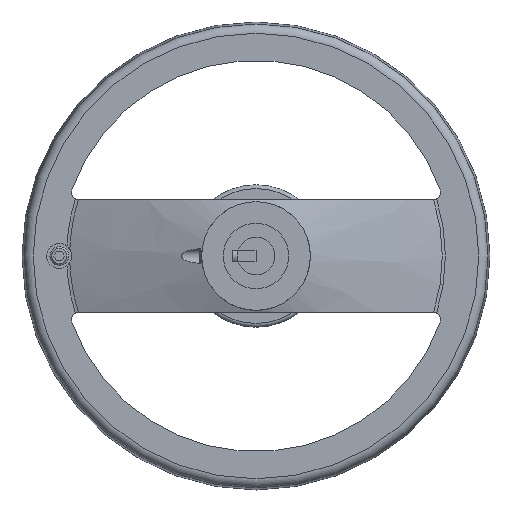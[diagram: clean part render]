
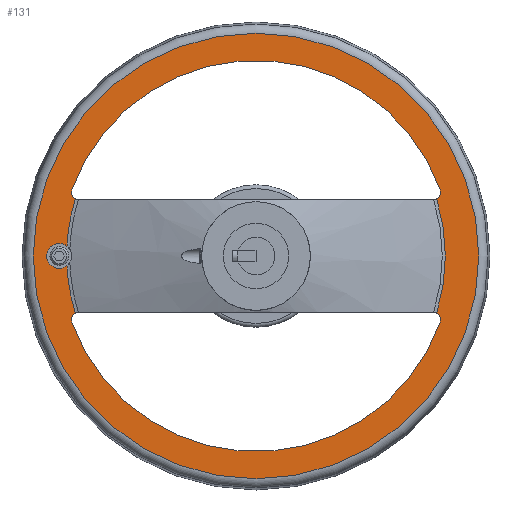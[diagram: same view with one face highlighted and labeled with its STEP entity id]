
A CAD part, left-side view. The second image highlights one B-rep face of the part: STEP entity #131.
In plain terms, the highlighted planar face has unit normal (-1, 0, 0).
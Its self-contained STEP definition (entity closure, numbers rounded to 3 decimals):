
#131 = ADVANCED_FACE( '', ( #306, #307, #308, #309 ), #310, .F. );
#306 = FACE_BOUND( '', #544, .T. );
#307 = FACE_OUTER_BOUND( '', #545, .T. );
#308 = FACE_BOUND( '', #546, .T. );
#309 = FACE_BOUND( '', #547, .T. );
#310 = PLANE( '', #548 );
#544 = EDGE_LOOP( '', ( #1050, #1051, #1052, #1053, #1054, #1055 ) );
#545 = EDGE_LOOP( '', ( #1056 ) );
#546 = EDGE_LOOP( '', ( #1057, #1058, #1059, #1060 ) );
#547 = EDGE_LOOP( '', ( #1061, #1062, #1063, #1064 ) );
#548 = AXIS2_PLACEMENT_3D( '', #1065, #1066, #1067 );
#1050 = ORIENTED_EDGE( '', *, *, #1488, .F. );
#1051 = ORIENTED_EDGE( '', *, *, #1366, .F. );
#1052 = ORIENTED_EDGE( '', *, *, #1489, .F. );
#1053 = ORIENTED_EDGE( '', *, *, #1372, .F. );
#1054 = ORIENTED_EDGE( '', *, *, #1370, .F. );
#1055 = ORIENTED_EDGE( '', *, *, #1490, .F. );
#1056 = ORIENTED_EDGE( '', *, *, #1491, .T. );
#1057 = ORIENTED_EDGE( '', *, *, #1471, .F. );
#1058 = ORIENTED_EDGE( '', *, *, #1474, .F. );
#1059 = ORIENTED_EDGE( '', *, *, #1476, .F. );
#1060 = ORIENTED_EDGE( '', *, *, #1467, .F. );
#1061 = ORIENTED_EDGE( '', *, *, #1463, .F. );
#1062 = ORIENTED_EDGE( '', *, *, #1487, .F. );
#1063 = ORIENTED_EDGE( '', *, *, #1484, .F. );
#1064 = ORIENTED_EDGE( '', *, *, #1480, .F. );
#1065 = CARTESIAN_POINT( '', ( 38., -118.889, 0. ) );
#1066 = DIRECTION( '', ( 1., 0., 0. ) );
#1067 = DIRECTION( '', ( 0., 0., -1. ) );
#1366 = EDGE_CURVE( '', #1593, #1595, #1596, .T. );
#1370 = EDGE_CURVE( '', #1600, #1598, #1602, .T. );
#1372 = EDGE_CURVE( '', #1598, #1605, #1606, .F. );
#1463 = EDGE_CURVE( '', #1765, #1767, #1768, .F. );
#1467 = EDGE_CURVE( '', #1773, #1775, #1776, .T. );
#1471 = EDGE_CURVE( '', #1780, #1773, #1782, .F. );
#1474 = EDGE_CURVE( '', #1785, #1780, #1787, .F. );
#1476 = EDGE_CURVE( '', #1775, #1785, #1789, .F. );
#1480 = EDGE_CURVE( '', #1767, #1794, #1795, .F. );
#1484 = EDGE_CURVE( '', #1794, #1801, #1802, .F. );
#1487 = EDGE_CURVE( '', #1801, #1765, #1805, .T. );
#1488 = EDGE_CURVE( '', #1595, #1806, #1807, .T. );
#1489 = EDGE_CURVE( '', #1605, #1593, #1808, .T. );
#1490 = EDGE_CURVE( '', #1806, #1600, #1809, .T. );
#1491 = EDGE_CURVE( '', #1810, #1810, #1811, .T. );
#1593 = VERTEX_POINT( '', #2091 );
#1595 = VERTEX_POINT( '', #2098 );
#1596 = LINE( '', #2099, #2100 );
#1598 = VERTEX_POINT( '', #2107 );
#1600 = VERTEX_POINT( '', #2116 );
#1602 = CIRCLE( '', #2123, 101.05 );
#1605 = VERTEX_POINT( '', #2126 );
#1606 = CIRCLE( '', #2127, 6.667 );
#1765 = VERTEX_POINT( '', #2440 );
#1767 = VERTEX_POINT( '', #2443 );
#1768 = CIRCLE( '', #2444, 4. );
#1773 = VERTEX_POINT( '', #2475 );
#1775 = VERTEX_POINT( '', #2478 );
#1776 = LINE( '', #2479, #2480 );
#1780 = VERTEX_POINT( '', #2507 );
#1782 = CIRCLE( '', #2510, 4. );
#1785 = VERTEX_POINT( '', #2513 );
#1787 = CIRCLE( '', #2516, 104.4 );
#1789 = CIRCLE( '', #2539, 4. );
#1794 = VERTEX_POINT( '', #2545 );
#1795 = CIRCLE( '', #2546, 104.4 );
#1801 = VERTEX_POINT( '', #2575 );
#1802 = CIRCLE( '', #2576, 4. );
#1805 = LINE( '', #2605, #2606 );
#1806 = VERTEX_POINT( '', #2607 );
#1807 = CIRCLE( '', #2608, 101.05 );
#1808 = CIRCLE( '', #2609, 101.05 );
#1809 = LINE( '', #2610, #2611 );
#1810 = VERTEX_POINT( '', #2612 );
#1811 = CIRCLE( '', #2613, 118.889 );
#2091 = CARTESIAN_POINT( '', ( 38., 96.494, -29.999 ) );
#2098 = CARTESIAN_POINT( '', ( 38., -96.494, -29.999 ) );
#2099 = CARTESIAN_POINT( '', ( 38., 250., -29.999 ) );
#2100 = VECTOR( '', #2806, 1000. );
#2107 = CARTESIAN_POINT( '', ( 38., 100.912, 5.266 ) );
#2116 = CARTESIAN_POINT( '', ( 38., 96.494, 29.999 ) );
#2123 = AXIS2_PLACEMENT_3D( '', #2807, #2808, #2809 );
#2126 = CARTESIAN_POINT( '', ( 38., 100.912, -5.266 ) );
#2127 = AXIS2_PLACEMENT_3D( '', #2813, #2814, #2815 );
#2440 = CARTESIAN_POINT( '', ( 38., 94.468, -30. ) );
#2443 = CARTESIAN_POINT( '', ( 38., 98.231, -35.355 ) );
#2444 = AXIS2_PLACEMENT_3D( '', #2958, #2959, #2960 );
#2475 = CARTESIAN_POINT( '', ( 38., 94.468, 30. ) );
#2478 = CARTESIAN_POINT( '', ( 38., -94.468, 30. ) );
#2479 = CARTESIAN_POINT( '', ( 38., -118.889, 30. ) );
#2480 = VECTOR( '', #2963, 1000. );
#2507 = CARTESIAN_POINT( '', ( 38., 98.231, 35.355 ) );
#2510 = AXIS2_PLACEMENT_3D( '', #2966, #2967, #2968 );
#2513 = CARTESIAN_POINT( '', ( 38., -98.231, 35.355 ) );
#2516 = AXIS2_PLACEMENT_3D( '', #2973, #2974, #2975 );
#2539 = AXIS2_PLACEMENT_3D( '', #2976, #2977, #2978 );
#2545 = CARTESIAN_POINT( '', ( 38., -98.231, -35.355 ) );
#2546 = AXIS2_PLACEMENT_3D( '', #2986, #2987, #2988 );
#2575 = CARTESIAN_POINT( '', ( 38., -94.468, -30. ) );
#2576 = AXIS2_PLACEMENT_3D( '', #2993, #2994, #2995 );
#2605 = CARTESIAN_POINT( '', ( 38., -118.889, -30. ) );
#2606 = VECTOR( '', #2997, 1000. );
#2607 = CARTESIAN_POINT( '', ( 38., -96.494, 29.999 ) );
#2608 = AXIS2_PLACEMENT_3D( '', #2998, #2999, #3000 );
#2609 = AXIS2_PLACEMENT_3D( '', #3001, #3002, #3003 );
#2610 = CARTESIAN_POINT( '', ( 38., -250., 29.999 ) );
#2611 = VECTOR( '', #3004, 1000. );
#2612 = CARTESIAN_POINT( '', ( 38., 0., 118.889 ) );
#2613 = AXIS2_PLACEMENT_3D( '', #3005, #3006, #3007 );
#2806 = DIRECTION( '', ( 0., -1., 0. ) );
#2807 = CARTESIAN_POINT( '', ( 38., 0., 0. ) );
#2808 = DIRECTION( '', ( -1., 0., 0. ) );
#2809 = DIRECTION( '', ( 0., 0., 1. ) );
#2813 = CARTESIAN_POINT( '', ( 38., 105., 0. ) );
#2814 = DIRECTION( '', ( 1., 0., 0. ) );
#2815 = DIRECTION( '', ( 0., 0., -1. ) );
#2958 = CARTESIAN_POINT( '', ( 38., 94.468, -34. ) );
#2959 = DIRECTION( '', ( 1., 0., 0. ) );
#2960 = DIRECTION( '', ( 0., 0., -1. ) );
#2963 = DIRECTION( '', ( 0., -1., 0. ) );
#2966 = CARTESIAN_POINT( '', ( 38., 94.468, 34. ) );
#2967 = DIRECTION( '', ( 1., 0., 0. ) );
#2968 = DIRECTION( '', ( 0., 0., -1. ) );
#2973 = CARTESIAN_POINT( '', ( 38., 0., 0. ) );
#2974 = DIRECTION( '', ( 1., 0., 0. ) );
#2975 = DIRECTION( '', ( 0., 0., -1. ) );
#2976 = CARTESIAN_POINT( '', ( 38., -94.468, 34. ) );
#2977 = DIRECTION( '', ( 1., 0., 0. ) );
#2978 = DIRECTION( '', ( 0., 0., -1. ) );
#2986 = CARTESIAN_POINT( '', ( 38., 0., 0. ) );
#2987 = DIRECTION( '', ( 1., 0., 0. ) );
#2988 = DIRECTION( '', ( 0., 0., -1. ) );
#2993 = CARTESIAN_POINT( '', ( 38., -94.468, -34. ) );
#2994 = DIRECTION( '', ( 1., 0., 0. ) );
#2995 = DIRECTION( '', ( 0., 0., -1. ) );
#2997 = DIRECTION( '', ( 0., 1., 0. ) );
#2998 = CARTESIAN_POINT( '', ( 38., 0., 0. ) );
#2999 = DIRECTION( '', ( -1., 0., 0. ) );
#3000 = DIRECTION( '', ( 0., 0., 1. ) );
#3001 = CARTESIAN_POINT( '', ( 38., 0., 0. ) );
#3002 = DIRECTION( '', ( -1., 0., 0. ) );
#3003 = DIRECTION( '', ( 0., 0., 1. ) );
#3004 = DIRECTION( '', ( 0., 1., 0. ) );
#3005 = CARTESIAN_POINT( '', ( 38., 0., 0. ) );
#3006 = DIRECTION( '', ( -1., 0., 0. ) );
#3007 = DIRECTION( '', ( 0., 0., 1. ) );
